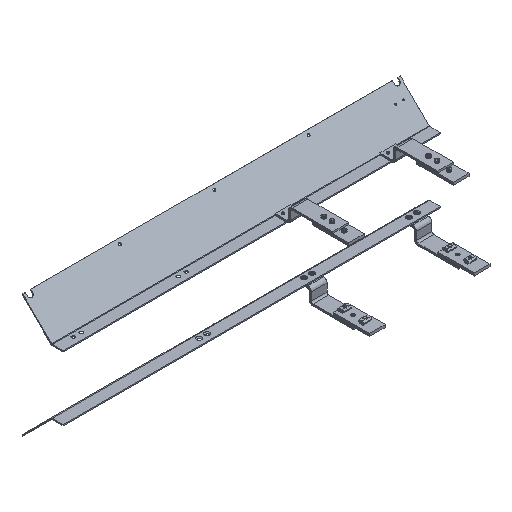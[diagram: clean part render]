
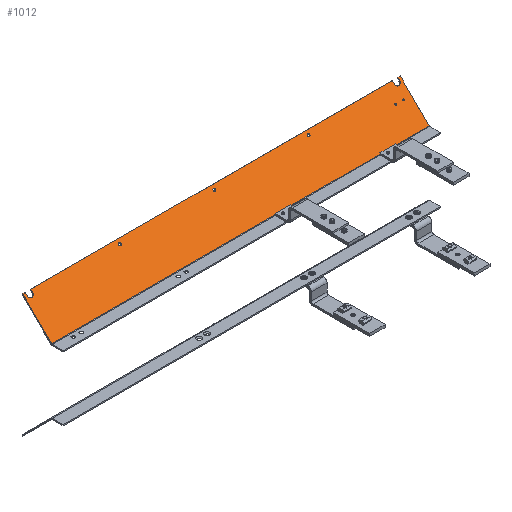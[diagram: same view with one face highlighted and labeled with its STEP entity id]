
A CAD part, isometric view. The second image highlights one B-rep face of the part: STEP entity #1012.
In plain terms, the highlighted planar face has unit normal (0, -0.707, 0.707).
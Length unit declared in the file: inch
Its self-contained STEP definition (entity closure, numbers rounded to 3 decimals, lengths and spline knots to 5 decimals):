
#91=DIRECTION('',(1.,0.,0.));
#92=VECTOR('',#91,36.);
#93=CARTESIAN_POINT('',(-36.,1.08655,-2.75135));
#94=LINE('',#93,#92);
#281=CARTESIAN_POINT('',(-35.5,3.65971,-0.17819));
#282=DIRECTION('',(0.,-0.707,0.707));
#283=DIRECTION('',(-1.,0.,0.));
#284=AXIS2_PLACEMENT_3D('',#281,#282,#283);
#286=DIRECTION('',(0.,0.707,0.707));
#287=VECTOR('',#286,0.252);
#288=CARTESIAN_POINT('',(-35.235,3.65971,-0.17819));
#289=LINE('',#288,#287);
#290=DIRECTION('',(1.,0.,0.));
#291=VECTOR('',#290,34.47);
#292=CARTESIAN_POINT('',(-35.235,3.8379,0.));
#293=LINE('',#292,#291);
#294=CARTESIAN_POINT('',(-0.5,3.65971,-0.17819));
#295=DIRECTION('',(0.,-0.707,0.707));
#296=DIRECTION('',(-1.,0.,0.));
#297=AXIS2_PLACEMENT_3D('',#294,#295,#296);
#299=DIRECTION('',(0.,0.707,0.707));
#300=VECTOR('',#299,0.252);
#301=CARTESIAN_POINT('',(-0.235,3.65971,-0.17819));
#302=LINE('',#301,#300);
#303=DIRECTION('',(1.,0.,0.));
#304=VECTOR('',#303,0.235);
#305=CARTESIAN_POINT('',(-0.235,3.8379,0.));
#306=LINE('',#305,#304);
#307=DIRECTION('',(0.,0.707,0.707));
#308=VECTOR('',#307,3.891);
#309=CARTESIAN_POINT('',(-36.,1.08655,-2.75135));
#310=LINE('',#309,#308);
#311=DIRECTION('',(1.,0.,0.));
#312=VECTOR('',#311,0.235);
#313=CARTESIAN_POINT('',(-36.,3.8379,0.));
#314=LINE('',#313,#312);
#315=CARTESIAN_POINT('',(-18.,3.57274,-0.26517));
#316=DIRECTION('',(0.,-0.707,0.707));
#317=DIRECTION('',(-1.,0.,0.));
#318=AXIS2_PLACEMENT_3D('',#315,#316,#317);
#320=CARTESIAN_POINT('',(-18.,3.57274,-0.26517));
#321=DIRECTION('',(0.,-0.707,0.707));
#322=DIRECTION('',(1.,0.,0.));
#323=AXIS2_PLACEMENT_3D('',#320,#321,#322);
#325=CARTESIAN_POINT('',(-27.,3.57274,-0.26517));
#326=DIRECTION('',(0.,-0.707,0.707));
#327=DIRECTION('',(-1.,0.,0.));
#328=AXIS2_PLACEMENT_3D('',#325,#326,#327);
#330=CARTESIAN_POINT('',(-27.,3.57274,-0.26517));
#331=DIRECTION('',(0.,-0.707,0.707));
#332=DIRECTION('',(1.,0.,0.));
#333=AXIS2_PLACEMENT_3D('',#330,#331,#332);
#335=CARTESIAN_POINT('',(-9.,3.57274,-0.26517));
#336=DIRECTION('',(0.,-0.707,0.707));
#337=DIRECTION('',(-1.,0.,0.));
#338=AXIS2_PLACEMENT_3D('',#335,#336,#337);
#340=CARTESIAN_POINT('',(-9.,3.57274,-0.26517));
#341=DIRECTION('',(0.,-0.707,0.707));
#342=DIRECTION('',(1.,0.,0.));
#343=AXIS2_PLACEMENT_3D('',#340,#341,#342);
#345=CARTESIAN_POINT('',(-0.75,2.77724,-1.06066));
#346=DIRECTION('',(0.,-0.707,0.707));
#347=DIRECTION('',(0.,-0.707,-0.707));
#348=AXIS2_PLACEMENT_3D('',#345,#346,#347);
#350=CARTESIAN_POINT('',(-0.75,2.77724,-1.06066));
#351=DIRECTION('',(0.,-0.707,0.707));
#352=DIRECTION('',(0.,0.707,0.707));
#353=AXIS2_PLACEMENT_3D('',#350,#351,#352);
#355=CARTESIAN_POINT('',(-1.5,2.77724,-1.06066));
#356=DIRECTION('',(0.,-0.707,0.707));
#357=DIRECTION('',(0.,-0.707,-0.707));
#358=AXIS2_PLACEMENT_3D('',#355,#356,#357);
#360=CARTESIAN_POINT('',(-1.5,2.77724,-1.06066));
#361=DIRECTION('',(0.,-0.707,0.707));
#362=DIRECTION('',(0.,0.707,0.707));
#363=AXIS2_PLACEMENT_3D('',#360,#361,#362);
#377=DIRECTION('',(0.,0.707,0.707));
#378=VECTOR('',#377,0.252);
#379=CARTESIAN_POINT('',(-0.765,3.65971,-0.17819));
#380=LINE('',#379,#378);
#409=DIRECTION('',(0.,0.707,0.707));
#410=VECTOR('',#409,3.891);
#411=CARTESIAN_POINT('',(0.,1.08655,-2.75135));
#412=LINE('',#411,#410);
#429=DIRECTION('',(0.,0.707,0.707));
#430=VECTOR('',#429,0.252);
#431=CARTESIAN_POINT('',(-35.765,3.65971,-0.17819));
#432=LINE('',#431,#430);
#589=CARTESIAN_POINT('',(0.,1.08655,-2.75135));
#590=VERTEX_POINT('',#589);
#593=CARTESIAN_POINT('',(-36.,1.08655,-2.75135));
#594=VERTEX_POINT('',#593);
#637=CARTESIAN_POINT('',(-35.765,3.65971,-0.17819));
#638=CARTESIAN_POINT('',(-35.235,3.65971,-0.17819));
#639=VERTEX_POINT('',#637);
#640=VERTEX_POINT('',#638);
#641=CARTESIAN_POINT('',(-35.235,3.8379,0.));
#642=VERTEX_POINT('',#641);
#643=CARTESIAN_POINT('',(-0.765,3.8379,0.));
#644=VERTEX_POINT('',#643);
#645=CARTESIAN_POINT('',(-0.765,3.65971,-0.17819));
#646=VERTEX_POINT('',#645);
#647=CARTESIAN_POINT('',(-0.235,3.65971,-0.17819));
#648=VERTEX_POINT('',#647);
#649=CARTESIAN_POINT('',(-0.235,3.8379,0.));
#650=VERTEX_POINT('',#649);
#651=CARTESIAN_POINT('',(0.,3.8379,0.));
#652=VERTEX_POINT('',#651);
#653=CARTESIAN_POINT('',(-36.,3.8379,0.));
#654=VERTEX_POINT('',#653);
#655=CARTESIAN_POINT('',(-35.765,3.8379,0.));
#656=VERTEX_POINT('',#655);
#657=CARTESIAN_POINT('',(-18.11,3.57274,-0.26517));
#658=CARTESIAN_POINT('',(-17.89,3.57274,-0.26517));
#659=VERTEX_POINT('',#657);
#660=VERTEX_POINT('',#658);
#661=CARTESIAN_POINT('',(-27.11,3.57274,-0.26517));
#662=CARTESIAN_POINT('',(-26.89,3.57274,-0.26517));
#663=VERTEX_POINT('',#661);
#664=VERTEX_POINT('',#662);
#665=CARTESIAN_POINT('',(-9.11,3.57274,-0.26517));
#666=CARTESIAN_POINT('',(-8.89,3.57274,-0.26517));
#667=VERTEX_POINT('',#665);
#668=VERTEX_POINT('',#666);
#669=CARTESIAN_POINT('',(-0.75,2.73548,-1.10242));
#670=CARTESIAN_POINT('',(-0.75,2.819,-1.0189));
#671=VERTEX_POINT('',#669);
#672=VERTEX_POINT('',#670);
#673=CARTESIAN_POINT('',(-1.5,2.73548,-1.10242));
#674=CARTESIAN_POINT('',(-1.5,2.819,-1.0189));
#675=VERTEX_POINT('',#673);
#676=VERTEX_POINT('',#674);
#953=CARTESIAN_POINT('',(0.,3.8379,0.));
#954=DIRECTION('',(0.,-0.707,0.707));
#955=DIRECTION('',(0.,-0.707,-0.707));
#956=AXIS2_PLACEMENT_3D('',#953,#954,#955);
#957=PLANE('',#956);
#958=ORIENTED_EDGE('',*,*,#943,.T.);
#960=ORIENTED_EDGE('',*,*,#959,.T.);
#962=ORIENTED_EDGE('',*,*,#961,.T.);
#964=ORIENTED_EDGE('',*,*,#963,.F.);
#966=ORIENTED_EDGE('',*,*,#965,.T.);
#968=ORIENTED_EDGE('',*,*,#967,.T.);
#970=ORIENTED_EDGE('',*,*,#969,.T.);
#972=ORIENTED_EDGE('',*,*,#971,.F.);
#973=ORIENTED_EDGE('',*,*,#768,.F.);
#975=ORIENTED_EDGE('',*,*,#974,.T.);
#977=ORIENTED_EDGE('',*,*,#976,.T.);
#979=ORIENTED_EDGE('',*,*,#978,.F.);
#980=EDGE_LOOP('',(#958,#960,#962,#964,#966,#968,#970,#972,#973,#975,#977,
#979));
#981=FACE_OUTER_BOUND('',#980,.F.);
#983=ORIENTED_EDGE('',*,*,#982,.T.);
#985=ORIENTED_EDGE('',*,*,#984,.T.);
#986=EDGE_LOOP('',(#983,#985));
#987=FACE_BOUND('',#986,.F.);
#989=ORIENTED_EDGE('',*,*,#988,.T.);
#991=ORIENTED_EDGE('',*,*,#990,.T.);
#992=EDGE_LOOP('',(#989,#991));
#993=FACE_BOUND('',#992,.F.);
#995=ORIENTED_EDGE('',*,*,#994,.T.);
#997=ORIENTED_EDGE('',*,*,#996,.T.);
#998=EDGE_LOOP('',(#995,#997));
#999=FACE_BOUND('',#998,.F.);
#1001=ORIENTED_EDGE('',*,*,#1000,.T.);
#1003=ORIENTED_EDGE('',*,*,#1002,.T.);
#1004=EDGE_LOOP('',(#1001,#1003));
#1005=FACE_BOUND('',#1004,.F.);
#1007=ORIENTED_EDGE('',*,*,#1006,.T.);
#1009=ORIENTED_EDGE('',*,*,#1008,.T.);
#1010=EDGE_LOOP('',(#1007,#1009));
#1011=FACE_BOUND('',#1010,.F.);
#285=CIRCLE('',#284,0.265);
#298=CIRCLE('',#297,0.265);
#319=CIRCLE('',#318,0.11);
#324=CIRCLE('',#323,0.11);
#329=CIRCLE('',#328,0.11);
#334=CIRCLE('',#333,0.11);
#339=CIRCLE('',#338,0.11);
#344=CIRCLE('',#343,0.11);
#349=CIRCLE('',#348,0.05906);
#354=CIRCLE('',#353,0.05906);
#359=CIRCLE('',#358,0.05906);
#364=CIRCLE('',#363,0.05906);
#768=EDGE_CURVE('',#594,#590,#94,.T.);
#943=EDGE_CURVE('',#639,#640,#285,.T.);
#959=EDGE_CURVE('',#640,#642,#289,.T.);
#961=EDGE_CURVE('',#642,#644,#293,.T.);
#963=EDGE_CURVE('',#646,#644,#380,.T.);
#965=EDGE_CURVE('',#646,#648,#298,.T.);
#967=EDGE_CURVE('',#648,#650,#302,.T.);
#969=EDGE_CURVE('',#650,#652,#306,.T.);
#971=EDGE_CURVE('',#590,#652,#412,.T.);
#974=EDGE_CURVE('',#594,#654,#310,.T.);
#976=EDGE_CURVE('',#654,#656,#314,.T.);
#978=EDGE_CURVE('',#639,#656,#432,.T.);
#982=EDGE_CURVE('',#659,#660,#319,.T.);
#984=EDGE_CURVE('',#660,#659,#324,.T.);
#988=EDGE_CURVE('',#663,#664,#329,.T.);
#990=EDGE_CURVE('',#664,#663,#334,.T.);
#994=EDGE_CURVE('',#667,#668,#339,.T.);
#996=EDGE_CURVE('',#668,#667,#344,.T.);
#1000=EDGE_CURVE('',#671,#672,#349,.T.);
#1002=EDGE_CURVE('',#672,#671,#354,.T.);
#1006=EDGE_CURVE('',#675,#676,#359,.T.);
#1008=EDGE_CURVE('',#676,#675,#364,.T.);
#1012=ADVANCED_FACE('',(#981,#987,#993,#999,#1005,#1011),#957,.T.);
